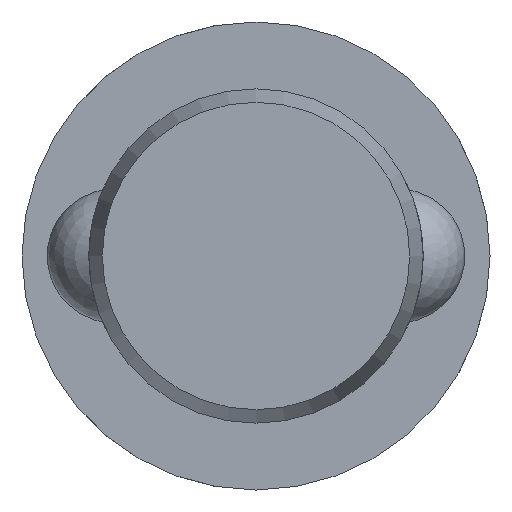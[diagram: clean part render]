
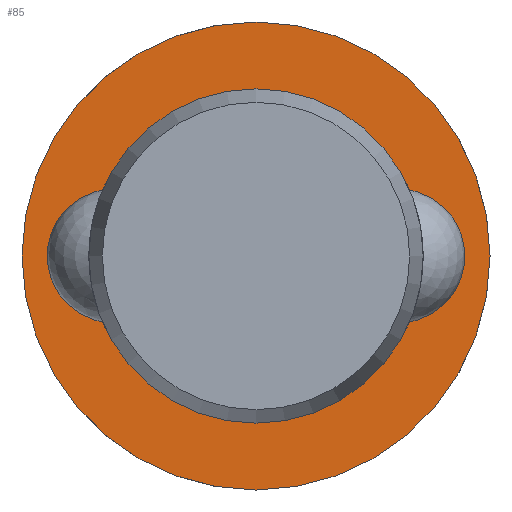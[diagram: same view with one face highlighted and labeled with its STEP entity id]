
A CAD part, left-side view. The second image highlights one B-rep face of the part: STEP entity #85.
In plain terms, the highlighted planar face has unit normal (-1, 0, 0).
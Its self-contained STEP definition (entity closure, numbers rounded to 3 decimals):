
#85 = ADVANCED_FACE( '', ( #131, #132 ), #133, .F. );
#131 = FACE_OUTER_BOUND( '', #204, .T. );
#132 = FACE_BOUND( '', #205, .T. );
#133 = PLANE( '', #206 );
#204 = EDGE_LOOP( '', ( #322 ) );
#205 = EDGE_LOOP( '', ( #323 ) );
#206 = AXIS2_PLACEMENT_3D( '', #324, #325, #326 );
#322 = ORIENTED_EDGE( '', *, *, #470, .F. );
#323 = ORIENTED_EDGE( '', *, *, #467, .T. );
#324 = CARTESIAN_POINT( '', ( 170.5, 10., 0. ) );
#325 = DIRECTION( '', ( 1., 0., 0. ) );
#326 = DIRECTION( '', ( 0., 0., -1. ) );
#467 = EDGE_CURVE( '', #541, #541, #542, .T. );
#470 = EDGE_CURVE( '', #547, #547, #548, .T. );
#541 = VERTEX_POINT( '', #777 );
#542 = CIRCLE( '', #778, 10. );
#547 = VERTEX_POINT( '', #909 );
#548 = CIRCLE( '', #910, 14. );
#777 = CARTESIAN_POINT( '', ( 170.5, 0., -10. ) );
#778 = AXIS2_PLACEMENT_3D( '', #989, #990, #991 );
#909 = CARTESIAN_POINT( '', ( 170.5, 0., -14. ) );
#910 = AXIS2_PLACEMENT_3D( '', #992, #993, #994 );
#989 = CARTESIAN_POINT( '', ( 170.5, 0., 0. ) );
#990 = DIRECTION( '', ( 1., 0., 0. ) );
#991 = DIRECTION( '', ( 0., 0., -1. ) );
#992 = CARTESIAN_POINT( '', ( 170.5, 0., 0. ) );
#993 = DIRECTION( '', ( 1., 0., 0. ) );
#994 = DIRECTION( '', ( 0., 0., -1. ) );
